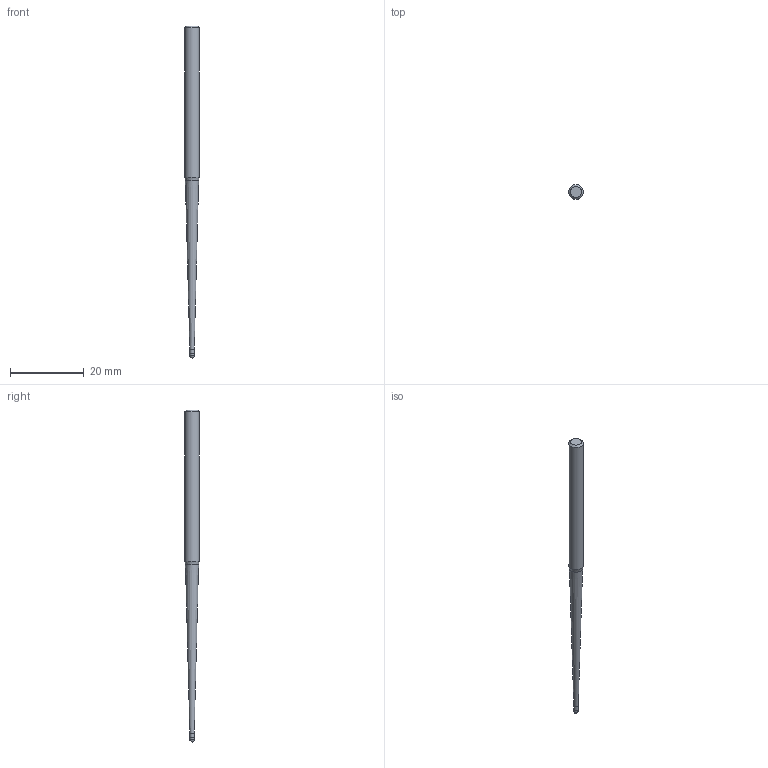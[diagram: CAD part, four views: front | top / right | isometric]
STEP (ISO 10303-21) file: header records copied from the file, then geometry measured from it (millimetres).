
FILE_DESCRIPTION((''),'2;1');
FILE_NAME('C:\Users\nsx150\AppData\Local\Temp\Mastercam 2021\SNAKH10GOD\TEMP.step','2021-10-21T13:32:40',(''),(''),'STEP Write','Mastercam 2021 ... CNC Software, Inc.','');
FILE_SCHEMA(('AUTOMOTIVE_DESIGN'));
Length unit declared in the file: millimetre
Products named in the file (1): None
Bounding box: 4 x 4 x 90 mm (x, y, z)
Volume: 749 mm3; surface area: 889.4 mm2
Topology: 2 solids, 2 shells, 10 faces, 16 edges, 9 vertices
Faces by surface type: plane 3, cylinder 3, cone 3, sphere 1
Full cylindrical faces by diameter (mm): 1.185 x1, 1.2 x1, 4 x1
Entity records: 232 total; most frequent: DIRECTION 40, CARTESIAN_POINT 28, AXIS2_PLACEMENT_3D 20, ORIENTED_EDGE 16, EDGE_LOOP 16, STYLED_ITEM 13, ADVANCED_FACE 10, FACE_BOUND 9
